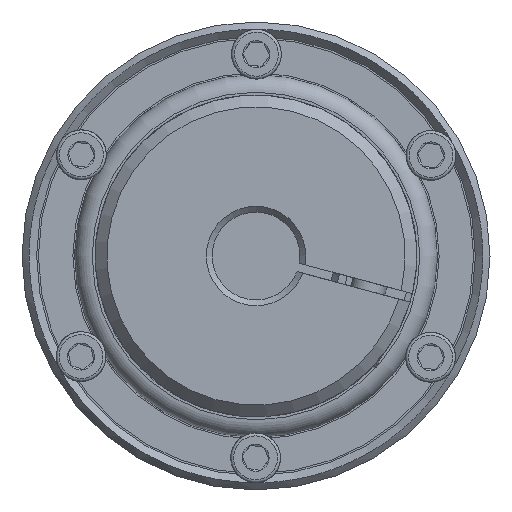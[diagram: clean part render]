
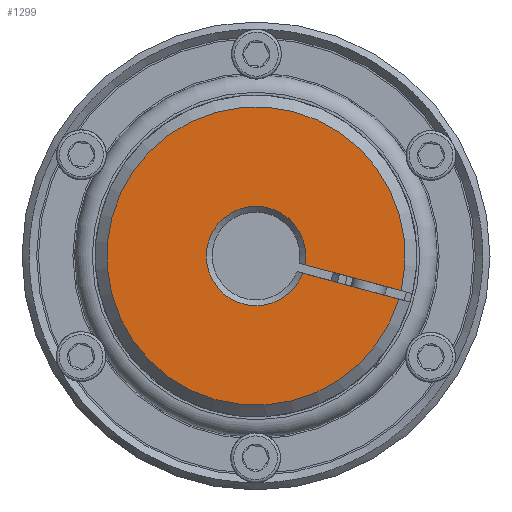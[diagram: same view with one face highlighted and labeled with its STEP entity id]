
A CAD part, left-side view. The second image highlights one B-rep face of the part: STEP entity #1299.
In plain terms, the highlighted planar face has unit normal (-1, 0, 0) as drawn and (0, 0, -1) by its records, which use the part's own axes.
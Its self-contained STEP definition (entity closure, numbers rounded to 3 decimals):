
#1299 = ADVANCED_FACE( '', ( #2647 ), #2648, .T. );
#2647 = FACE_OUTER_BOUND( '', #4194, .T. );
#2648 = PLANE( '', #4195 );
#4194 = EDGE_LOOP( '', ( #6467, #6468, #6469, #6470 ) );
#4195 = AXIS2_PLACEMENT_3D( '', #6471, #6472, #6473 );
#6467 = ORIENTED_EDGE( '', *, *, #8139, .F. );
#6468 = ORIENTED_EDGE( '', *, *, #8832, .T. );
#6469 = ORIENTED_EDGE( '', *, *, #8399, .T. );
#6470 = ORIENTED_EDGE( '', *, *, #8575, .T. );
#6471 = CARTESIAN_POINT( '', ( 0., 0., 0. ) );
#6472 = DIRECTION( '', ( 0., 0., -1. ) );
#6473 = DIRECTION( '', ( -1., 0., 0. ) );
#8139 = EDGE_CURVE( '', #9336, #9338, #9339, .T. );
#8399 = EDGE_CURVE( '', #9778, #9779, #9780, .T. );
#8575 = EDGE_CURVE( '', #9779, #9338, #10057, .F. );
#8832 = EDGE_CURVE( '', #9336, #9778, #10417, .T. );
#9336 = VERTEX_POINT( '', #11028 );
#9338 = VERTEX_POINT( '', #11033 );
#9339 = LINE( '', #11034, #11035 );
#9778 = VERTEX_POINT( '', #11864 );
#9779 = VERTEX_POINT( '', #11865 );
#9780 = LINE( '', #11866, #11867 );
#10057 = CIRCLE( '', #12246, 8.5 );
#10417 = CIRCLE( '', #13001, 25.5 );
#11028 = CARTESIAN_POINT( '', ( -25.489, 0.75, 0. ) );
#11033 = CARTESIAN_POINT( '', ( -8.467, 0.75, 0. ) );
#11034 = CARTESIAN_POINT( '', ( -27.5, 0.75, 0. ) );
#11035 = VECTOR( '', #13872, 1000. );
#11864 = CARTESIAN_POINT( '', ( -25.489, -0.75, 0. ) );
#11865 = CARTESIAN_POINT( '', ( -8.467, -0.75, 0. ) );
#11866 = CARTESIAN_POINT( '', ( -27.5, -0.75, 0. ) );
#11867 = VECTOR( '', #14222, 1000. );
#12246 = AXIS2_PLACEMENT_3D( '', #14526, #14527, #14528 );
#13001 = AXIS2_PLACEMENT_3D( '', #14895, #14896, #14897 );
#13872 = DIRECTION( '', ( 1., 0., 0. ) );
#14222 = DIRECTION( '', ( 1., 0., 0. ) );
#14526 = CARTESIAN_POINT( '', ( 0., 0., 0. ) );
#14527 = DIRECTION( '', ( 0., 0., -1. ) );
#14528 = DIRECTION( '', ( -1., 0., 0. ) );
#14895 = CARTESIAN_POINT( '', ( 0., 0., 0. ) );
#14896 = DIRECTION( '', ( 0., 0., -1. ) );
#14897 = DIRECTION( '', ( -1., 0., 0. ) );
